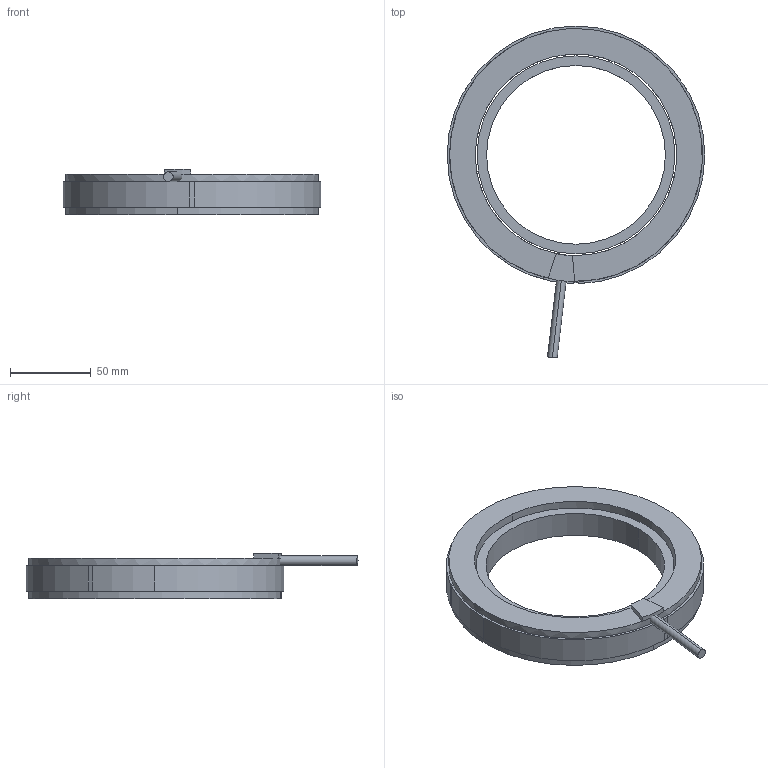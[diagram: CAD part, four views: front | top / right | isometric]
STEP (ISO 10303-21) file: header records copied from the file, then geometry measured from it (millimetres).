
FILE_DESCRIPTION (( 'STEP AP203' ), '1' );
FILE_NAME ('TM160-25 KIT 3D.STEP', '2021-06-21T06:56:04', ( '' ), ( '' ), 'SwSTEP 2.0', 'SolidWorks 2021', '' );
FILE_SCHEMA (( 'CONFIG_CONTROL_DESIGN' ));
Length unit declared in the file: millimetre
Products named in the file (1): TM160-25 KIT 3D
Bounding box: 160 x 206.16 x 28 mm (x, y, z)
Volume: 226919.9 mm3; surface area: 55725.1 mm2
Topology: 3 solids, 3 shells, 40 faces, 91 edges, 58 vertices
Faces by surface type: plane 22, cylinder 18
Entity records: 1212 total; most frequent: DIRECTION 213, CARTESIAN_POINT 190, ORIENTED_EDGE 182, EDGE_CURVE 91, AXIS2_PLACEMENT_3D 81, VERTEX_POINT 58, VECTOR 51, LINE 51
